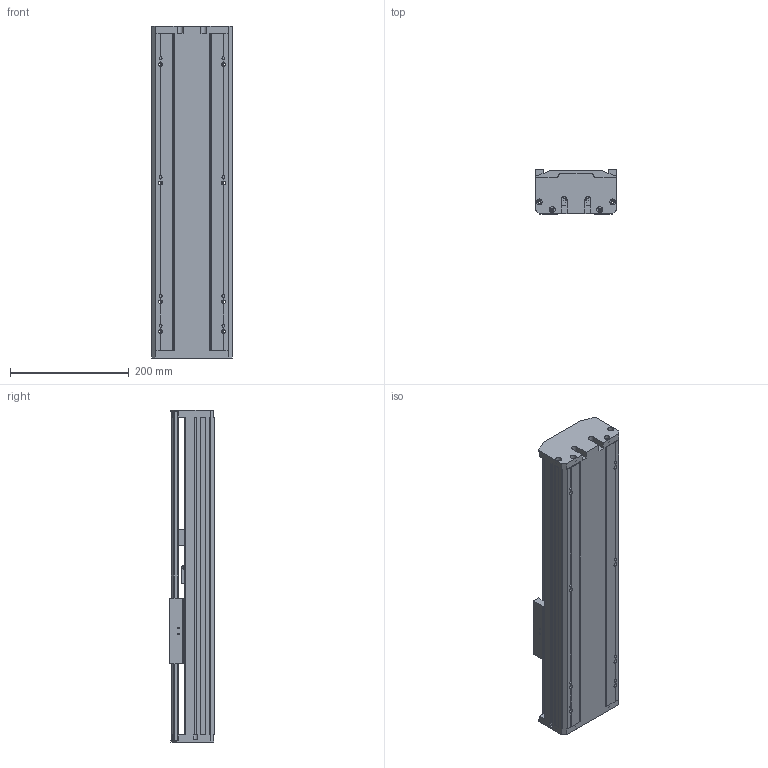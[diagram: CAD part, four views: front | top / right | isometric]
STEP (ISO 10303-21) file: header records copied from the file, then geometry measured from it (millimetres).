
FILE_DESCRIPTION(/* description */ (''),/* implementation_level */ '2;1');
FILE_NAME(/* name */ 'TKA136-FI-100_asm1.stp',/* time_stamp */ '2016-05-07T10:06:34+08:00',/* author */ (''),/* organization */ (''),/* preprocessor_version */ 'ST-DEVELOPER v15',/* originating_system */ 'SIEMENS PLM Software NX 8.5',/* authorisation */ '');
FILE_SCHEMA (('AUTOMOTIVE_DESIGN { 1 0 10303 214 3 1 1 1 }'));
Length unit declared in the file: millimetre
Products named in the file (3): 100-02; 100-01; TKA136-FI-100_asm1
Assembly tree (2 placements, depth 2):
  TKA136-FI-100_asm1
    100-01
    100-02
Bounding box: 136 x 75 x 559 mm (x, y, z)
Volume: 1992558.2 mm3; surface area: 717576.1 mm2
Topology: 2 solids, 12 shells, 919 faces, 2594 edges, 1699 vertices
Faces by surface type: cylinder 437, plane 432, cone 50
Full cylindrical faces by diameter (mm): 2.5 x4, 3.3 x8, 4.2 x8, 4.5 x20, 5 x6, 5.5 x14, 8 x20, 10 x9, 10.5 x2, 11.6 x1, 12 x8, 15 x3, 16 x5, 24 x3, 26 x1, 28 x1, 46 x1
Entity records: 31349 total; most frequent: CARTESIAN_POINT 7993, DIRECTION 4814, ORIENTED_EDGE 4744, EDGE_CURVE 2372, AXIS2_PLACEMENT_3D 1784, VERTEX_POINT 1651, LINE 1246, VECTOR 1246
